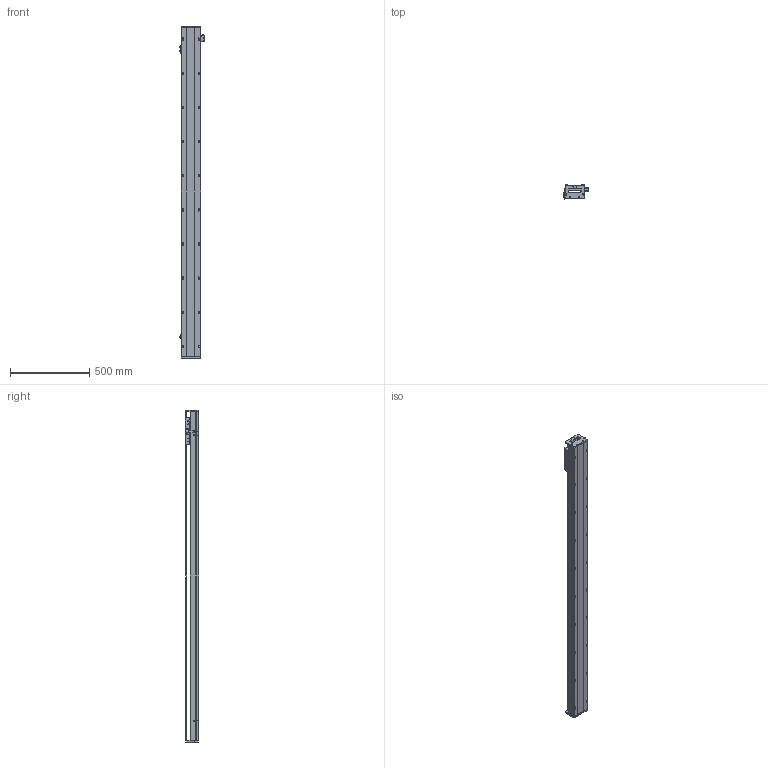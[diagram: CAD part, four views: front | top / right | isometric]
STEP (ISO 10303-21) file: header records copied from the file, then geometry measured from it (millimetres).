
FILE_DESCRIPTION (( 'STEP AP203' ), '1' );
FILE_NAME ('SKR12S-C1-S1830（简）.STEP', '2022-09-26T02:58:42', ( '' ), ( '' ), 'SwSTEP 2.0', 'SolidWorks 2018', '' );
FILE_SCHEMA (( 'CONFIG_CONTROL_DESIGN' ));
Length unit declared in the file: millimetre
Products named in the file (8): 棠掑假蚾輸; EE-SX672; SIKO棠掑; 覜茼え; SKR12耜啣; SKR12滑台-170L（简）; SKR12菁釱-C1-S1830(潠); SKR12S-C1-S1830（简）
Assembly tree (10 placements, depth 2):
  SKR12S-C1-S1830（简）
    SKR12菁釱-C1-S1830(潠)
    SKR12滑台-170L（简）
    SKR12耜啣  x2
    棠掑假蚾輸
    SIKO棠掑
    覜茼え
    EE-SX672  x3
Bounding box: 162.7 x 87.3 x 2100 mm (x, y, z)
Volume: 9039712.7 mm3; surface area: 1423941.4 mm2
Topology: 11 solids, 11 shells, 1090 faces, 2917 edges, 1841 vertices
Faces by surface type: cylinder 523, plane 417, cone 150
Entity records: 30565 total; most frequent: CARTESIAN_POINT 6527, DIRECTION 4959, ORIENTED_EDGE 4766, EDGE_CURVE 2383, AXIS2_PLACEMENT_3D 1849, VERTEX_POINT 1545, LINE 1261, VECTOR 1261
